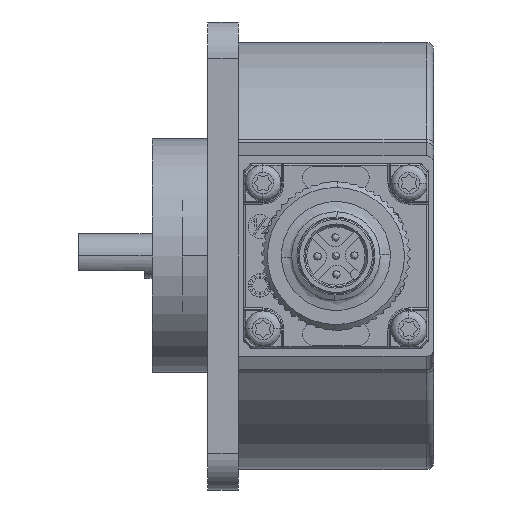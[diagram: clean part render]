
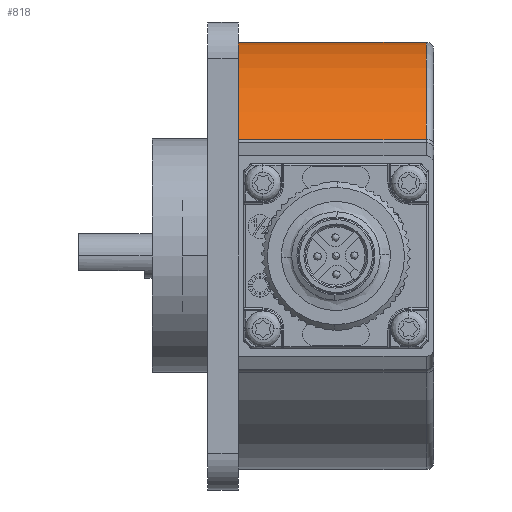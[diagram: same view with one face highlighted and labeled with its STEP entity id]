
A CAD part, front view. The second image highlights one B-rep face of the part: STEP entity #818.
In plain terms, the highlighted cylindrical face has radius 29 mm (diameter 58 mm), a partial arc.
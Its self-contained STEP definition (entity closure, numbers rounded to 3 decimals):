
#214 = DIRECTION ( 'NONE',  ( -1., 0., 0. ) ) ;
#818 = ADVANCED_FACE ( 'NONE', ( #16240 ), #37182, .T. ) ;
#2424 = AXIS2_PLACEMENT_3D ( 'NONE', #17883, #214, #39963 ) ;
#5512 = LINE ( 'NONE', #15964, #31416 ) ;
#5549 = EDGE_CURVE ( 'NONE', #34873, #27938, #5512, .T. ) ;
#6488 = VERTEX_POINT ( 'NONE', #10258 ) ;
#9022 = DIRECTION ( 'NONE',  ( 0., 0., -1. ) ) ;
#10258 = CARTESIAN_POINT ( 'NONE',  ( 8.068, 25.423, 29. ) ) ;
#10860 = ORIENTED_EDGE ( 'NONE', *, *, #5549, .T. ) ;
#14316 = DIRECTION ( 'NONE',  ( -1., 0., 0. ) ) ;
#15352 = CARTESIAN_POINT ( 'NONE',  ( 8.068, 25.423, 29. ) ) ;
#15964 = CARTESIAN_POINT ( 'NONE',  ( 8.068, 1.11, 15.807 ) ) ;
#16240 = FACE_OUTER_BOUND ( 'NONE', #29372, .T. ) ;
#16679 = ORIENTED_EDGE ( 'NONE', *, *, #45728, .F. ) ;
#17276 = CIRCLE ( 'NONE', #2424, 29. ) ;
#17883 = CARTESIAN_POINT ( 'NONE',  ( 33.568, 25.423, 0. ) ) ;
#23925 = CARTESIAN_POINT ( 'NONE',  ( 33.568, 1.11, 15.807 ) ) ;
#24887 = AXIS2_PLACEMENT_3D ( 'NONE', #44413, #40909, #9022 ) ;
#25001 = DIRECTION ( 'NONE',  ( 0., 0., -1. ) ) ;
#26395 = ORIENTED_EDGE ( 'NONE', *, *, #28682, .T. ) ;
#27938 = VERTEX_POINT ( 'NONE', #23925 ) ;
#28238 = DIRECTION ( 'NONE',  ( -1., 0., 0. ) ) ;
#28682 = EDGE_CURVE ( 'NONE', #27938, #36898, #17276, .T. ) ;
#29372 = EDGE_LOOP ( 'NONE', ( #26395, #41208, #16679, #10860 ) ) ;
#31416 = VECTOR ( 'NONE', #40637, 1000. ) ;
#32028 = CARTESIAN_POINT ( 'NONE',  ( 8.068, 25.423, 0. ) ) ;
#32148 = CIRCLE ( 'NONE', #35089, 29. ) ;
#32966 = CARTESIAN_POINT ( 'NONE',  ( 8.068, 1.11, 15.807 ) ) ;
#34015 = EDGE_CURVE ( 'NONE', #36898, #6488, #45947, .T. ) ;
#34873 = VERTEX_POINT ( 'NONE', #32966 ) ;
#35089 = AXIS2_PLACEMENT_3D ( 'NONE', #32028, #14316, #25001 ) ;
#36898 = VERTEX_POINT ( 'NONE', #40613 ) ;
#37182 = CYLINDRICAL_SURFACE ( 'NONE', #24887, 29. ) ;
#39963 = DIRECTION ( 'NONE',  ( 0., 0., -1. ) ) ;
#40609 = VECTOR ( 'NONE', #28238, 1000. ) ;
#40613 = CARTESIAN_POINT ( 'NONE',  ( 33.568, 25.423, 29. ) ) ;
#40637 = DIRECTION ( 'NONE',  ( 1., 0., 0. ) ) ;
#40909 = DIRECTION ( 'NONE',  ( -1., 0., 0. ) ) ;
#41208 = ORIENTED_EDGE ( 'NONE', *, *, #34015, .T. ) ;
#44413 = CARTESIAN_POINT ( 'NONE',  ( 8.068, 25.423, 0. ) ) ;
#45728 = EDGE_CURVE ( 'NONE', #34873, #6488, #32148, .T. ) ;
#45947 = LINE ( 'NONE', #15352, #40609 ) ;
